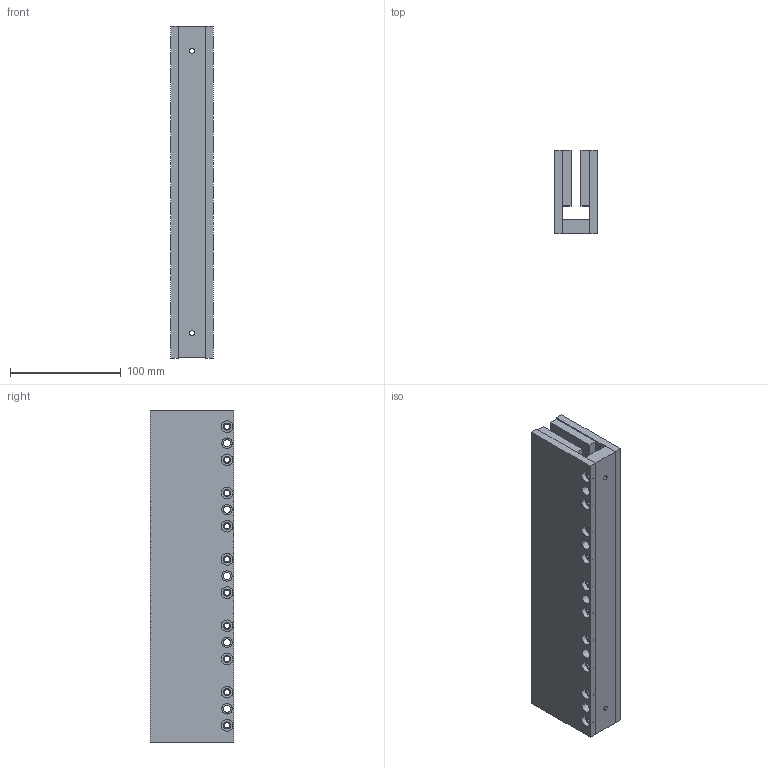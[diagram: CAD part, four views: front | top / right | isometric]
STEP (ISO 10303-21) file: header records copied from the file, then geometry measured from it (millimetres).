
FILE_DESCRIPTION (( 'STEP AP214' ), '1' );
FILE_NAME ('JKA4-300.STEP', '2025-09-05T08:42:18', ( '' ), ( '' ), 'SwSTEP 2.0', 'SolidWorks 2016', '' );
FILE_SCHEMA (( 'AUTOMOTIVE_DESIGN' ));
Length unit declared in the file: millimetre
Products named in the file (1): JKA4-300
Bounding box: 38.6 x 75.3 x 300 mm (x, y, z)
Volume: 603673.2 mm3; surface area: 214078.2 mm2
Topology: 23 solids, 23 shells, 292 faces, 678 edges, 452 vertices
Faces by surface type: plane 158, cylinder 134
Entity records: 12022 total; most frequent: DIRECTION 1532, CARTESIAN_POINT 1423, ORIENTED_EDGE 1356, EDGE_CURVE 678, AXIS2_PLACEMENT_3D 561, VERTEX_POINT 452, LINE 410, VECTOR 410
